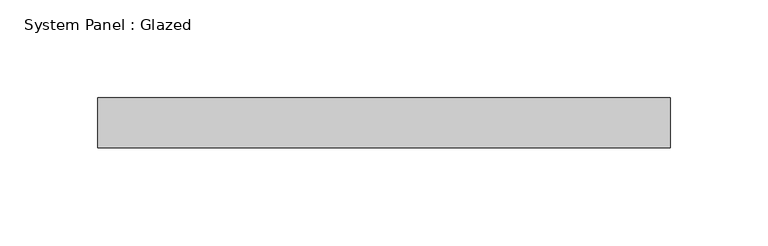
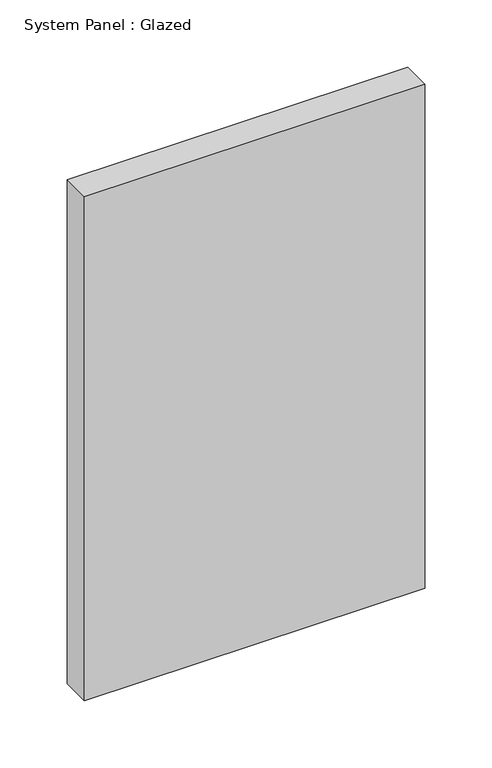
"""IFC4 building model written with IfcOpenShell, lengths in millimetres: plate geometry, System Panel : Glazed."""

from ifc_helpers import new_model, si_unit, origin, origin_with_axes, place, context, project, spatial, polyline, outline, extrude, source, transform, mapped, element, save


def system_panel_glazed_3b610fd6(model_context):
    return source(origin(), model_context, "Body", "SweptSolid", [
        extrude(outline(polyline([(146.0499998, -44.45), (-146.0499998, -44.45), (-146.0499998, -19.05), (146.0499998, -19.05), (146.0499998, -44.45)])), origin_with_axes(), (0.0, 0.0, 1.0), 457.2),
    ])


if __name__ == "__main__":
    model = new_model("IFC4")
    model_context = context("Model", 3, world=origin())
    ifc_project = project(units=[si_unit("LENGTHUNIT", "METRE", prefix="MILLI")], contexts=[model_context])
    site = spatial("IfcSite", under=ifc_project)
    building = spatial("IfcBuilding", under=site)
    placement = place(None, origin())
    system_panel_glazed_shape = system_panel_glazed_3b610fd6(model_context)
    element("IfcPlate", 1, ObjectType="System Panel : Glazed", at=placement, inside=building, context=model_context, shape_type="MappedRepresentation", body=[
        mapped(system_panel_glazed_shape, transform((0.0, 0.0, 0.0), x_axis=(1.0, 0.0, 0.0), y_axis=(0.0, 1.0, 0.0), z_axis=(0.0, 0.0, 1.0))),
    ])
    save(model, "model.ifc")
